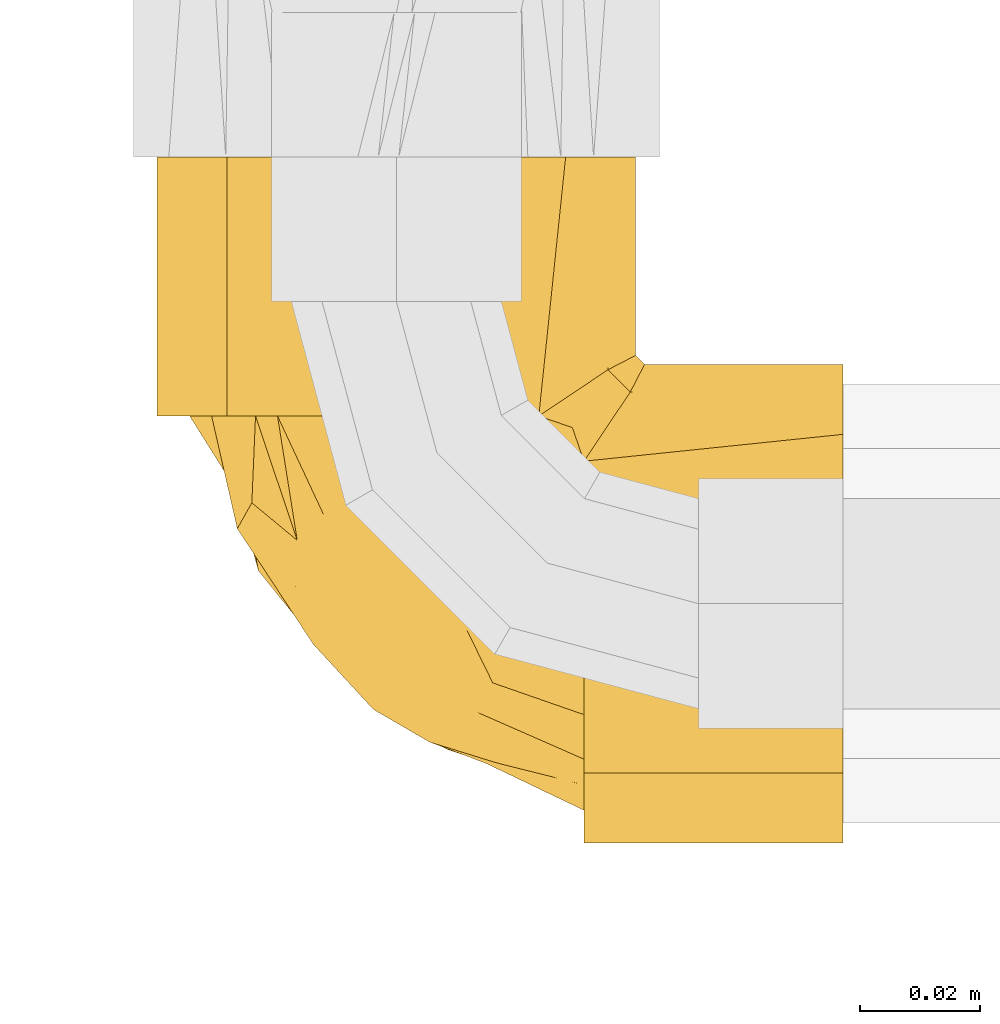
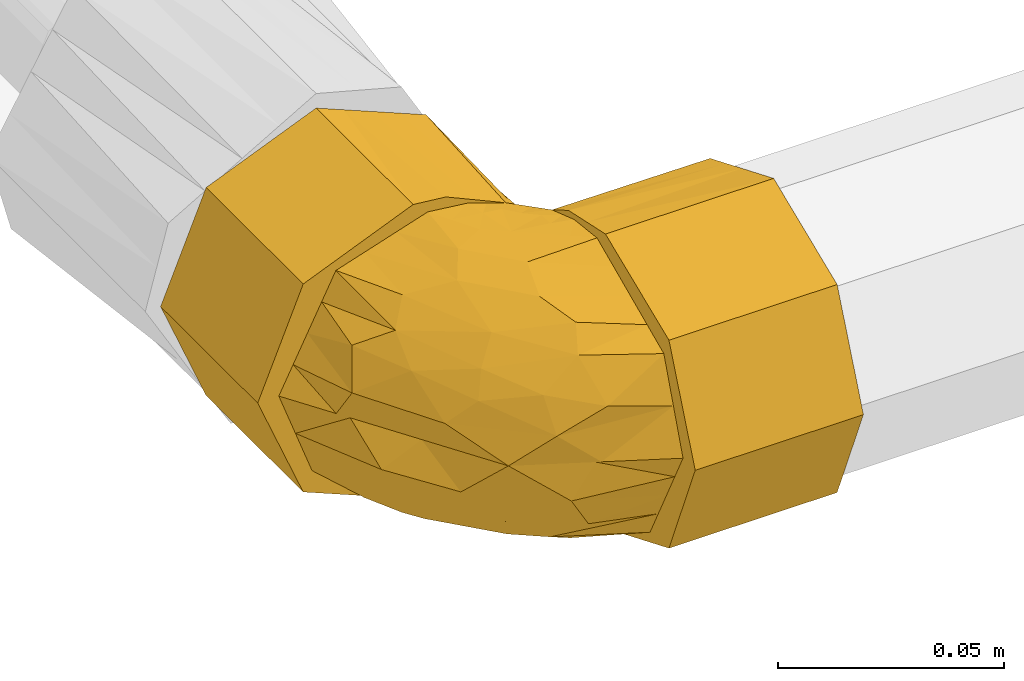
# One storey, part 258 of 652: 1 covering.
"""IFC2X3 building model written with IfcOpenShell, lengths in millimetres."""

from ifc_helpers import new_model, entity, si_unit, converted_unit, direction, frame, origin, place, context, subcontext, project, spatial, faceted_brep, material, type_object, element, save


model = new_model("IFC2X3")

# Units and contexts
model_context = context("Model", 3, precision=0.01, world=frame((0.0, 0.0, 308426.39999999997)), true_north=direction((6.123233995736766e-17, 1.0)))
plan_context = context("Plan", 3, precision=0.01, world=frame((0.0, 0.0, 308426.39999999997)), true_north=direction((6.123233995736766e-17, 1.0)))
body_context = subcontext(model_context, "Body", "Model", "MODEL_VIEW")
ifc_project = project(units=[si_unit("LENGTHUNIT", "METRE", prefix="MILLI"), si_unit("AREAUNIT", "SQUARE_METRE"), si_unit("VOLUMEUNIT", "CUBIC_METRE"), converted_unit("PLANEANGLEUNIT", "DEGREE", entity("IfcPlaneAngleMeasure", 0.017453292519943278), si_unit("PLANEANGLEUNIT", "RADIAN"), dimensions=[0, 0, 0, 0, 0, 0, 0])], contexts=[model_context, plan_context])

# Site, building, storey
site_placement = place(None, origin())
site = spatial("IfcSite", under=ifc_project, at=site_placement, Name="Default", CompositionType="ELEMENT")
building_placement = place(site_placement, origin())
building = spatial("IfcBuilding", under=site, at=building_placement, CompositionType="ELEMENT")
storey_placement = place(building_placement, frame((0.0, 0.0, 1730.6999999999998)))
storey = spatial("IfcBuildingStorey", under=building, at=storey_placement, Name="EG_Produktion_FFB", CompositionType="ELEMENT", Elevation=1730.6999999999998)

# Covering
ifc_material = material(Name="Dämmung - Armaflex-Schlauch")
covering_type = type_object("IfcCoveringType", Name="Rohrdämmung außen:Armaflex-Schlauch", PredefinedType="INSULATION")
covering_placement = place(storey_placement, frame((79280.69747546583, 51796.63308173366, 3558.6047277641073)))
element("IfcCovering", 1, at=covering_placement, inside=storey, type_object=covering_type, material=ifc_material, Name="Rohrdämmung außen:Armaflex-Schlauch", ObjectType="Rohrdämmung außen:Armaflex-Schlauch", PredefinedType="INSULATION", context=body_context, shape_type="Brep", body=[
    faceted_brep([(55.37038782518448, 72.59527223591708, 6.098554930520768), (51.35297020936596, 72.59527223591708, 5.62650296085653), (45.12980118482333, 72.59527223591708, 4.895272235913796), (37.49419488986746, 72.59527223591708, 8.337309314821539), (29.858588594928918, 72.59527223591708, 11.779346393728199), (22.684812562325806, 72.59527223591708, 15.01319609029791), (15.511036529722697, 72.59527223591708, 18.247045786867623), (11.256907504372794, 72.59527223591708, 29.82115901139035), (7.0027784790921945, 72.59527223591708, 41.39527223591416), (10.654927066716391, 72.59527223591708, 48.615867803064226), (14.30707565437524, 72.59527223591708, 55.83646337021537), (17.95922424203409, 72.59527223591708, 63.05705893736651), (21.611372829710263, 72.59527223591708, 70.27765450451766), (28.97333188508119, 72.59527223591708, 72.66219266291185), (37.051566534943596, 72.59527223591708, 75.27873244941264), (45.12980118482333, 72.59527223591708, 77.89527223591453), (51.35297020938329, 72.59527223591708, 77.16404151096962), (55.37038782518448, 72.59527223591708, 76.69198954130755), (60.22206990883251, 72.59527223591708, 75.03870510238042), (65.0737519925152, 72.59527223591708, 73.38542066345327), (57.433378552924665, 72.59527223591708, 76.84232631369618), (49.7930051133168, 72.59527223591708, 80.29923196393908), (41.39527223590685, 72.59527223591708, 81.19527223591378), (33.39506010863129, 72.59527223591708, 77.88147587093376), (27.323847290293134, 72.59527223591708, 75.3666971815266), (20.28813481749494, 72.59527223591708, 72.45240965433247), (13.252422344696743, 72.59527223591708, 69.53812212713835), (10.338134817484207, 72.59527223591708, 62.502409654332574), (7.423847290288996, 72.59527223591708, 55.4666971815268), (4.509559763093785, 72.59527223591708, 48.43098470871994), (1.5952722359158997, 72.59527223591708, 41.39527223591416), (4.9090686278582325, 72.59527223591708, 33.39506004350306), (7.423847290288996, 72.59527223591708, 27.323847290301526), (10.338134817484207, 72.59527223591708, 20.288134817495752), (13.252422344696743, 72.59527223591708, 13.252422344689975), (20.28813481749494, 72.59527223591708, 10.338134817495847), (27.323847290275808, 72.59527223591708, 7.423847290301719), (33.395061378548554, 72.59527223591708, 4.909068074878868), (41.39527223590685, 72.59527223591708, 1.5952722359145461), (49.59864940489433, 72.59527223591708, 3.364784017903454), (57.80202657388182, 72.59527223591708, 5.134295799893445), (65.0737519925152, 72.59527223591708, 9.405123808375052), (60.22206990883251, 72.59527223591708, 7.75183936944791), (48.43098470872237, 115.64527223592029, 78.28098470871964), (55.466697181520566, 115.64527223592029, 75.3666971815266), (62.50240965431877, 115.64527223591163, 72.45240965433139), (69.53812212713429, 115.64527223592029, 69.53812212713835), (72.4524096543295, 115.64527223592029, 62.502409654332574), (75.36669718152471, 115.64527223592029, 55.4666971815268), (77.88147577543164, 115.64527223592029, 49.39548459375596), (81.19527223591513, 115.64527223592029, 41.39527223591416), (77.88147645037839, 115.64527223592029, 33.395061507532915), (75.36669718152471, 115.64527223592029, 27.323847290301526), (72.4524096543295, 115.64527223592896, 20.28813481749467), (69.53812212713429, 115.64527223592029, 13.252422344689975), (62.50240965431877, 115.64527223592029, 10.338134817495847), (55.466697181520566, 115.64527223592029, 7.423847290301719), (48.43098470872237, 115.64527223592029, 4.509559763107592), (41.39527223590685, 115.64527223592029, 1.5952722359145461), (34.35955976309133, 115.64527223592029, 4.509559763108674), (27.323847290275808, 115.64527223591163, 7.423847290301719), (20.288134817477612, 115.64527223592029, 10.338134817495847), (13.252422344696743, 115.64527223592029, 13.252422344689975), (10.338134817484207, 115.64527223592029, 20.288134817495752), (7.423847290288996, 115.64527223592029, 27.323847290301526), (4.509559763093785, 115.64527223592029, 34.359559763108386), (1.5952722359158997, 115.64527223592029, 41.39527223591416), (4.509559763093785, 115.64527223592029, 48.43098470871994), (7.423847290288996, 115.64527223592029, 55.4666971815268), (10.338134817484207, 115.64527223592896, 62.502409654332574), (13.252422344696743, 115.64527223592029, 69.53812212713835), (25.394847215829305, 115.64527223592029, 74.56767918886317), (33.39505972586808, 115.64527223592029, 77.881475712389), (41.39527223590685, 115.64527223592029, 81.19527223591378), (70.83137669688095, 76.44407623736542, 66.68337377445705), (81.19527223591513, 82.67731282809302, 41.39527223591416), (78.89213681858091, 81.48509653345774, 50.68829956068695), (76.58900140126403, 80.29288023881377, 59.981326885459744), (77.7405691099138, 80.88898838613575, 55.33481322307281), (70.83137669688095, 76.44407623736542, 16.107170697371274), (78.89213681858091, 81.48509653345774, 32.10224491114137), (76.58900140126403, 80.29288023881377, 22.80921758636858), (80.12613767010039, 82.12387613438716, 37.08137186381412), (72.59527223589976, 41.39527223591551, 1.595272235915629), (72.59527223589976, 33.39506017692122, 4.909068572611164), (72.59527223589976, 27.323847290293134, 7.423847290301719), (72.59527223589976, 20.28813481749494, 10.338134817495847), (72.59527223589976, 13.25242234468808, 13.252422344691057), (72.59527223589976, 10.33813481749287, 20.288134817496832), (72.59527223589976, 7.4238472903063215, 27.32384729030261), (72.59527223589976, 4.909068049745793, 33.39506143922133), (72.59527223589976, 1.5952722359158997, 41.39527223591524), (72.59527223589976, 4.909068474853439, 49.39548405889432), (72.59527223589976, 7.4238472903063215, 55.4666971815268), (72.59527223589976, 10.338134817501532, 62.502409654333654), (72.59527223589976, 13.25242234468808, 69.53812212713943), (72.59527223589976, 20.28813481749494, 72.45240965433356), (72.59527223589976, 27.323847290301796, 75.3666971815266), (72.59527223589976, 34.359559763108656, 78.28098470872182), (72.59527223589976, 41.39527223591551, 81.19527223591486), (72.59527223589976, 49.598680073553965, 79.42574657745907), (72.59527223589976, 57.802087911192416, 77.65622091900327), (72.59527223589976, 65.07375199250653, 73.38542066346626), (72.59527223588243, 60.22206990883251, 75.03870510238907), (72.59527223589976, 55.37038782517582, 76.6919895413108), (72.59527223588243, 51.352970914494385, 77.16404142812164), (72.59527223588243, 48.24138604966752, 77.52965683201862), (72.59527223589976, 45.12980118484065, 77.89527223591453), (72.59527223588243, 37.72511002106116, 74.55732884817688), (72.59527223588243, 30.320418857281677, 71.21938546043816), (72.59527223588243, 22.91572769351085, 67.88144207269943), (72.59527223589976, 15.511036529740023, 64.5434986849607), (72.59527223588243, 13.383972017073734, 58.756442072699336), (72.59527223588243, 11.256907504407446, 52.96938546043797), (72.59527223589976, 7.002778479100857, 41.39527223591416), (72.59527223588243, 10.654927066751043, 34.17467666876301), (72.59527223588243, 14.307075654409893, 26.954081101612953), (72.59527223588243, 17.959224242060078, 19.73348553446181), (72.59527223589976, 21.61137282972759, 12.512889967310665), (72.59527223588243, 27.490979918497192, 10.608485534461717), (72.59527223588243, 33.37058700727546, 8.704081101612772), (72.59527223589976, 45.12980118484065, 4.895272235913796), (72.59527223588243, 48.24138604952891, 5.26088763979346), (72.59527223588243, 51.35297091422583, 5.626503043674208), (72.59527223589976, 55.37038782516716, 6.098554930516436), (72.59527223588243, 60.22206990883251, 7.751839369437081), (72.59527223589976, 65.07375199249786, 9.405123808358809), (72.59527223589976, 57.433378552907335, 5.948218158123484), (72.59527223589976, 49.79300511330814, 2.4913125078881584), (115.64527223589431, 34.359559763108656, 78.28098470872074), (115.64527223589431, 27.323847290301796, 75.3666971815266), (115.64527223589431, 20.28813481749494, 72.45240965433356), (115.64527223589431, 13.25242234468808, 69.53812212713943), (115.64527223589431, 8.22286515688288, 57.39569695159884), (115.64527223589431, 4.90906869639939, 49.39548459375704), (115.64527223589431, 1.5952722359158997, 41.39527223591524), (115.64527223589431, 4.509559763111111, 34.359559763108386), (115.64527223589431, 7.4238472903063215, 27.32384729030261), (115.64527223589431, 10.33813481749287, 20.288134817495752), (115.64527223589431, 13.25242234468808, 13.252422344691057), (115.64527223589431, 20.28813481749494, 10.33813481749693), (115.64527223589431, 27.323847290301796, 7.4238472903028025), (115.64527223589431, 34.359559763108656, 4.509559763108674), (115.64527223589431, 41.39527223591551, 1.595272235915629), (115.64527223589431, 48.43098470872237, 4.509559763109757), (115.64527223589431, 55.466697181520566, 7.4238472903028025), (115.64527223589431, 62.50240965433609, 10.33813481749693), (115.64527223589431, 69.53812212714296, 13.252422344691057), (115.64527223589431, 72.45240965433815, 20.288134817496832), (115.64527223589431, 75.36669718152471, 27.32384729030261), (115.64527223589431, 77.88147570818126, 33.3950597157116), (115.64527223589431, 81.19527223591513, 41.39527223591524), (115.64527223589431, 77.88147644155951, 49.39548298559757), (115.64527223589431, 75.36669718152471, 55.4666971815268), (115.64527223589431, 72.45240965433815, 62.502409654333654), (115.64527223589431, 69.53812212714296, 69.53812212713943), (115.64527223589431, 62.50240965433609, 72.45240965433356), (115.64527223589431, 55.466697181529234, 75.3666971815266), (115.64527223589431, 49.395484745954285, 77.881475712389), (115.64527223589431, 41.39527223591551, 81.19527223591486), (82.67731282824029, 81.19527223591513, 41.39527223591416), (81.48509653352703, 78.89213681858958, 50.68829956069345), (80.29288023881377, 76.58900140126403, 59.98132688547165), (81.57043946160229, 79.05700314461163, 50.02307281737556), (76.44407623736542, 70.83137669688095, 66.68337377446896), (76.44407623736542, 70.83137669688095, 16.107170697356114), (81.48509653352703, 78.89213681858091, 32.102244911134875), (80.29288023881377, 76.58900140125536, 22.8092175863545), (81.57043946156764, 79.05700314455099, 32.76747165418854), (82.12387614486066, 80.1261376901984, 37.08137194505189), (57.41279314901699, 28.20605366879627, 70.65637227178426), (29.224112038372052, 56.30546273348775, 70.91823941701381), (40.04771632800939, 50.75028825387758, 74.40859480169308), (51.722743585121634, 61.09574012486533, 77.89527223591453), (44.46846004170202, 57.98707832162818, 77.07749174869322), (55.20512724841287, 45.95077994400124, 76.96796310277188), (40.81467094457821, 36.88337413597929, 68.49935517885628), (24.894350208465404, 51.91196638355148, 65.4945965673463), (37.585624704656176, 23.773093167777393, 41.39527223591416), (46.90695483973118, 18.356403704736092, 49.467746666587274), (27.582841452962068, 34.59504635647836, 49.82846924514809), (14.64849003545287, 60.38972746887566, 41.395272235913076), (14.922460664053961, 53.85236224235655, 50.83191319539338), (36.284700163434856, 33.57875936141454, 62.24753235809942), (70.20187735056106, 46.96057105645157, 77.89527223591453), (67.80848246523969, 48.79134092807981, 77.89527223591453), (63.02169269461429, 52.452880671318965, 77.89527223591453), (62.159007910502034, 53.112770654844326, 77.89527223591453), (57.37221813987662, 56.77431039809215, 77.89527223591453), (55.05300302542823, 23.21474453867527, 65.58625555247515), (24.58993472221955, 44.283571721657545, 59.26745342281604), (17.34662782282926, 58.15325374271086, 60.28414410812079), (45.92465218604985, 22.797790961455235, 58.2476953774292), (34.001734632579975, 30.87407236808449, 55.908867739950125), (55.0904484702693, 15.387935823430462, 41.39527223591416), (56.27567245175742, 14.820190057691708, 41.39527223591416), (22.294201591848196, 48.18418270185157, 41.39527223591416), (26.010863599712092, 42.250937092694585, 41.39527223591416), (29.939913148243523, 35.97863793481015, 41.39527223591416), (57.880169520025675, 14.948660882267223, 55.80740113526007), (53.16765365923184, 36.867223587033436, 73.86526147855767), (16.506821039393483, 57.42310466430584, 41.39527223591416), (48.15377857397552, 67.32079492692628, 77.89527223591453), (55.97900107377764, 66.95210059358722, 77.23917866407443), (61.26475606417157, 67.680848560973, 76.01108025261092), (81.90790933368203, 81.90790933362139, 41.39527223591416), (64.05926779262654, 64.05926727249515, 76.11562270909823), (70.657051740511, 70.65705203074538, 71.53408147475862), (67.68084924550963, 61.264756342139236, 76.01108003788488), (67.04460292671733, 56.00707165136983, 77.22455062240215), (55.97900107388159, 66.95210059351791, 5.55136580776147), (48.153778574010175, 67.32079492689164, 4.895272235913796), (70.6570520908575, 70.6570521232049, 11.256463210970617), (64.05926854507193, 64.05926802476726, 6.674922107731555), (57.372218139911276, 56.774310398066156, 4.895272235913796), (61.2647560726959, 67.68084859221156, 6.779464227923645), (67.68084927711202, 61.2647563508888, 6.779464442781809), (67.04460292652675, 56.007071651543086, 5.565993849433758), (67.80848246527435, 48.79134092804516, 4.895272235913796), (70.20187735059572, 46.96057105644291, 4.895272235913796), (63.021692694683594, 52.45288067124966, 4.895272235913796), (62.159007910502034, 53.112770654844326, 4.895272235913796), (51.722743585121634, 61.09574012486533, 4.895272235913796), (37.59649450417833, 55.93070336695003, 7.9048254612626), (29.779001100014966, 57.41477332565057, 11.153131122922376), (58.35673429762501, 39.072413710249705, 6.909214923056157), (30.25008837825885, 32.138649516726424, 31.85158433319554), (38.50982378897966, 35.612071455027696, 16.779704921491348), (47.23069909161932, 41.054937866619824, 9.122171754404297), (50.9601072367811, 28.565877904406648, 14.60783686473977), (50.778566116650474, 49.421239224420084, 5.896678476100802), (42.44960378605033, 59.576127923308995, 5.888277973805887), (29.826692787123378, 47.70689865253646, 15.351617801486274), (39.68498593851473, 28.826720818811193, 22.540337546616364), (49.866350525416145, 17.118194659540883, 31.634152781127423), (55.10540828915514, 18.65315480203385, 22.719372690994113), (58.24750794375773, 32.135143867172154, 9.627121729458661), (19.804135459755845, 50.73714499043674, 24.594765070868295), (29.15087133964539, 40.742011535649, 21.09165217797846), (21.439025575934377, 59.56172140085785, 16.7503826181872), (18.424421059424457, 46.88832387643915, 33.11251139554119)], [[[0, 1, 2, 3, 4, 5, 6, 7, 8, 9, 10, 11, 12, 13, 14, 15, 16, 17, 18, 19, 20, 21, 22, 23, 24, 25, 26, 27, 28, 29, 30, 31, 32, 33, 34, 35, 36, 37, 38, 39, 40, 41, 42]], [[43, 44, 45, 46, 47, 48, 49, 50, 51, 52, 53, 54, 55, 56, 57, 58, 59, 60, 61, 62, 63, 64, 65, 66, 67, 68, 69, 70, 71, 72, 73]], [[47, 46, 74]], [[75, 50, 49]], [[76, 75, 49]], [[48, 77, 78, 76]], [[47, 74, 77]], [[44, 20, 45]], [[43, 21, 44]], [[46, 19, 74]], [[77, 48, 47]], [[44, 21, 20]], [[43, 22, 21]], [[48, 76, 49]], [[43, 73, 22]], [[45, 20, 19]], [[19, 46, 45]], [[23, 22, 73, 72, 71, 70, 26, 25, 24]], [[26, 70, 69, 68, 67, 66, 30, 29, 28, 27]], [[38, 37, 36, 35, 34, 62, 61, 60, 59, 58]], [[30, 66, 65, 64, 63, 62, 34, 33, 32, 31]], [[56, 40, 39]], [[53, 79, 54]], [[39, 57, 56]], [[41, 55, 54]], [[40, 55, 41]], [[80, 52, 51]], [[52, 80, 81]], [[58, 57, 38]], [[51, 75, 82, 80]], [[38, 57, 39]], [[79, 53, 81]], [[55, 40, 56]], [[51, 50, 75]], [[53, 52, 81]], [[79, 41, 54]], [[83, 84, 85, 86, 87, 88, 89, 90, 91, 92, 93, 94, 95, 96, 97, 98, 99, 100, 101, 102, 103, 104, 105, 106, 107, 108, 109, 110, 111, 112, 113, 114, 115, 116, 117, 118, 119, 120, 121, 122, 123, 124, 125, 126, 127, 128]], [[129, 130, 131, 132, 133, 134, 135, 136, 137, 138, 139, 140, 141, 142, 143, 144, 145, 146, 147, 148, 149, 150, 151, 152, 153, 154, 155, 156, 157, 158, 159]], [[135, 134, 133, 132, 95, 94, 93, 92, 91]], [[95, 132, 131, 130, 129, 159, 99, 98, 97, 96]], [[159, 158, 157, 100]], [[101, 156, 102]], [[99, 159, 100]], [[101, 100, 157]], [[152, 151, 160]], [[102, 156, 155]], [[153, 161, 162]], [[161, 153, 152]], [[152, 160, 163, 161]], [[154, 164, 155]], [[164, 154, 162]], [[156, 101, 157]], [[154, 153, 162]], [[164, 102, 155]], [[148, 147, 165]], [[149, 166, 150]], [[166, 149, 167]], [[160, 151, 150]], [[148, 165, 167]], [[145, 127, 146]], [[144, 128, 145]], [[147, 126, 165]], [[167, 149, 148]], [[145, 128, 127]], [[144, 83, 128]], [[150, 166, 168, 169, 160]], [[144, 143, 83]], [[146, 127, 126]], [[126, 147, 146]], [[91, 90, 89, 88, 87, 139, 138, 137, 136, 135]], [[141, 140, 139, 87, 86, 85, 84, 83, 143, 142]], [[109, 170, 110]], [[13, 171, 172]], [[14, 13, 172]], [[173, 174, 175]], [[176, 171, 177]], [[15, 14, 174]], [[178, 179, 180]], [[9, 181, 182]], [[172, 175, 174]], [[13, 12, 171]], [[12, 11, 177]], [[176, 177, 183]], [[175, 107, 184, 185, 186, 187, 188, 173]], [[189, 170, 176]], [[176, 172, 171]], [[190, 191, 182]], [[11, 10, 191]], [[177, 11, 191]], [[170, 189, 110]], [[192, 183, 193]], [[179, 178, 194, 195]], [[182, 191, 10]], [[190, 182, 180]], [[177, 191, 190]], [[182, 10, 9]], [[182, 196, 180]], [[177, 190, 183]], [[177, 171, 12]], [[180, 196, 197, 198, 178]], [[113, 179, 195]], [[112, 111, 199, 113]], [[199, 111, 189]], [[195, 114, 113]], [[179, 192, 193]], [[200, 175, 172]], [[200, 108, 175]], [[172, 176, 200]], [[189, 111, 110]], [[200, 170, 109]], [[183, 189, 176]], [[108, 200, 109]], [[189, 192, 199]], [[108, 107, 175]], [[176, 170, 200]], [[193, 190, 180]], [[189, 183, 192]], [[190, 193, 183]], [[179, 193, 180]], [[181, 9, 8]], [[182, 181, 201, 196]], [[192, 179, 199]], [[179, 113, 199]], [[174, 173, 202, 15]], [[172, 174, 14]], [[173, 203, 202]], [[188, 204, 203]], [[17, 203, 18]], [[202, 17, 16, 15]], [[205, 76, 163]], [[74, 164, 162, 77]], [[163, 76, 78, 77, 162, 161]], [[206, 102, 207]], [[207, 164, 74]], [[106, 105, 104, 185, 184, 107]], [[206, 208, 102]], [[186, 185, 209, 188, 187]], [[205, 75, 76]], [[163, 160, 205]], [[206, 207, 19]], [[164, 207, 102]], [[19, 18, 204]], [[19, 207, 74]], [[202, 203, 17]], [[204, 206, 19]], [[203, 173, 188]], [[18, 203, 204]], [[102, 208, 103]], [[103, 209, 104]], [[208, 206, 188]], [[209, 103, 208]], [[209, 185, 104]], [[188, 209, 208]], [[204, 188, 206]], [[205, 160, 169]], [[210, 211, 0]], [[169, 168, 166, 167, 81, 80, 82]], [[41, 212, 213]], [[1, 0, 211, 2]], [[213, 214, 215]], [[205, 169, 82]], [[79, 165, 212]], [[126, 125, 216]], [[213, 212, 126]], [[205, 82, 75]], [[167, 165, 79, 81]], [[217, 124, 218]], [[210, 215, 214]], [[122, 121, 219, 218, 124, 123]], [[41, 79, 212]], [[212, 165, 126]], [[215, 41, 213]], [[125, 124, 217]], [[126, 216, 213]], [[125, 217, 216]], [[217, 218, 220, 221, 214]], [[215, 42, 41]], [[0, 42, 210]], [[211, 210, 222]], [[214, 213, 216]], [[210, 42, 215]], [[216, 217, 214]], [[210, 214, 222]], [[4, 223, 224]], [[121, 120, 225]], [[226, 178, 198, 197]], [[227, 228, 229]], [[230, 228, 223]], [[231, 222, 230]], [[224, 228, 232]], [[233, 234, 226]], [[3, 231, 223]], [[235, 234, 233]], [[236, 225, 120]], [[231, 2, 211, 222]], [[226, 237, 238]], [[4, 3, 223]], [[225, 221, 220, 218, 219, 121]], [[239, 224, 232]], [[6, 237, 7]], [[237, 6, 239]], [[240, 201, 7]], [[230, 225, 228]], [[226, 240, 237]], [[236, 228, 225]], [[229, 117, 235]], [[194, 234, 115]], [[226, 234, 178]], [[115, 114, 195, 194]], [[237, 239, 238]], [[240, 226, 197]], [[228, 224, 223]], [[224, 239, 5]], [[5, 239, 6]], [[5, 4, 224]], [[239, 232, 238]], [[7, 201, 181, 8]], [[7, 237, 240]], [[240, 197, 196, 201]], [[229, 118, 117]], [[194, 178, 234]], [[233, 238, 227]], [[235, 117, 116]], [[234, 235, 116]], [[229, 235, 233]], [[231, 3, 2]], [[230, 223, 231]], [[230, 222, 214, 221]], [[225, 230, 221]], [[119, 118, 236, 120]], [[236, 118, 229]], [[229, 228, 236]], [[234, 116, 115]], [[227, 238, 232]], [[226, 238, 233]], [[228, 227, 232]], [[233, 227, 229]]]),
])

save(model, "model.ifc")
